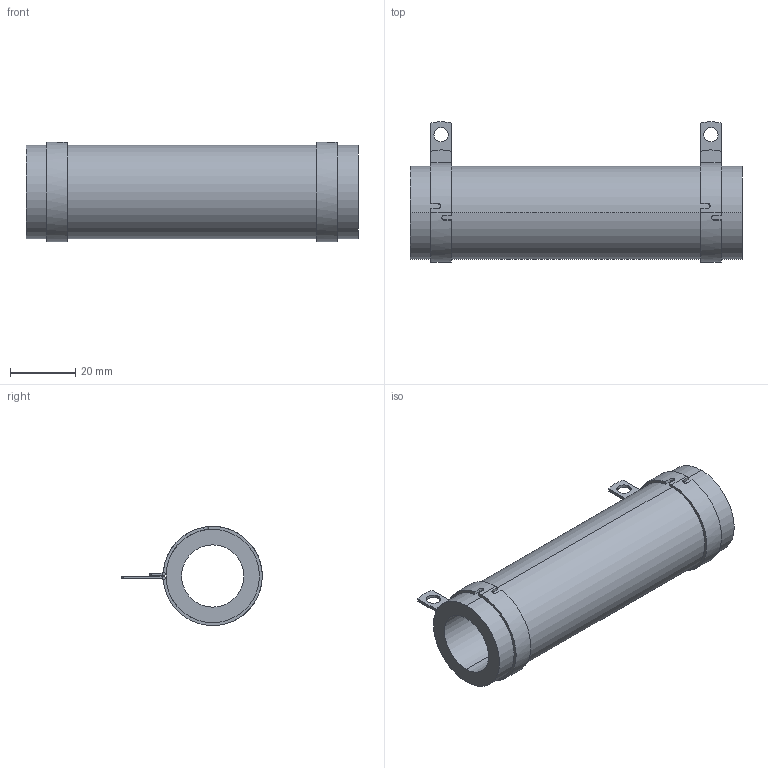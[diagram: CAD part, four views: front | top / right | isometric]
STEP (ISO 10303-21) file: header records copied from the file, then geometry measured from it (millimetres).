
FILE_DESCRIPTION (( 'STEP AP203' ), '1' );
FILE_NAME ('RBEF0150xxxxxKFB00.STEP', '2014-04-04T18:39:40', ( '' ), ( '' ), 'SwSTEP 2.0', 'SolidWorks 2012', '' );
FILE_SCHEMA (( 'CONFIG_CONTROL_DESIGN' ));
Length unit declared in the file: millimetre
Products named in the file (3): DAL15-160-XXX_DAL15-160-918-CLOSED; DAL013-06_DAL013-125; RBEF0150xxxxxKFB00
Assembly tree (3 placements, depth 2):
  RBEF0150xxxxxKFB00
    DAL013-06_DAL013-125
    DAL15-160-XXX_DAL15-160-918-CLOSED  x2
Bounding box: 101.6 x 43.03 x 30.35 mm (x, y, z)
Volume: 37379.3 mm3; surface area: 19020.3 mm2
Topology: 3 solids, 3 shells, 80 faces, 190 edges, 116 vertices
Faces by surface type: plane 42, cylinder 34, bspline 4
Entity records: 1692 total; most frequent: CARTESIAN_POINT 352, DIRECTION 229, ORIENTED_EDGE 202, EDGE_CURVE 101, AXIS2_PLACEMENT_3D 89, VERTEX_POINT 62, VECTOR 51, LINE 51
